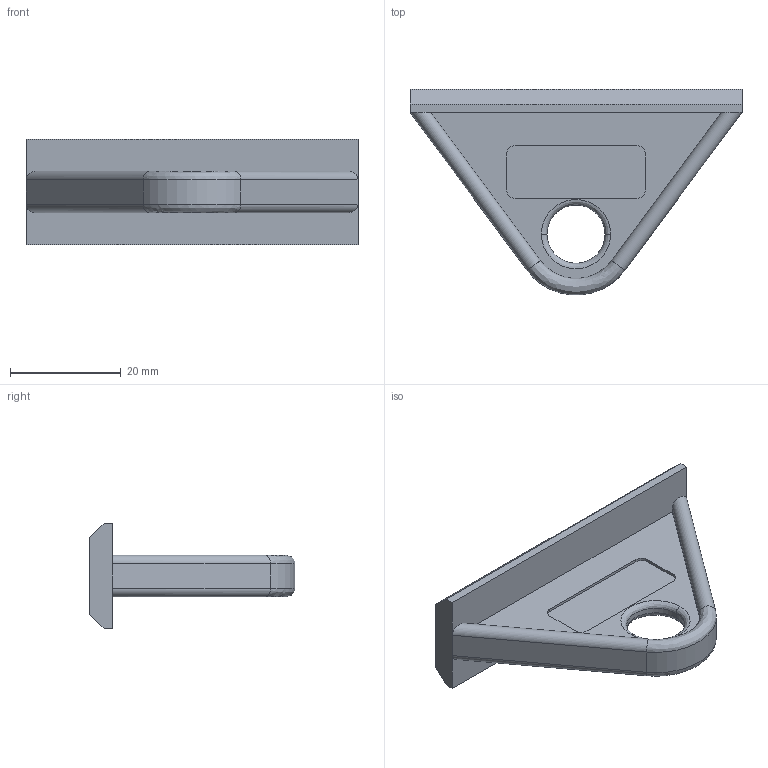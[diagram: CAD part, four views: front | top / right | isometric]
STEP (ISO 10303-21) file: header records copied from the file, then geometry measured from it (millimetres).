
FILE_DESCRIPTION (( 'STEP AP214' ), '1' );
FILE_NAME ('6.04.spth.STEP', '2015-05-31T08:07:36', ( '' ), ( '' ), 'SwSTEP 2.0', 'SolidWorks 2015', '' );
FILE_SCHEMA (( 'AUTOMOTIVE_DESIGN' ));
Length unit declared in the file: millimetre
Products named in the file (1): 6.04.spth
Bounding box: 60 x 37.16 x 19 mm (x, y, z)
Volume: 8366 mm3; surface area: 5662.4 mm2
Topology: 1 solids, 1 shells, 50 faces, 122 edges, 76 vertices
Faces by surface type: plane 27, cylinder 17, bspline 6
Entity records: 1718 total; most frequent: CARTESIAN_POINT 523, ORIENTED_EDGE 244, DIRECTION 238, EDGE_CURVE 122, VECTOR 80, LINE 80, AXIS2_PLACEMENT_3D 79, VERTEX_POINT 76
